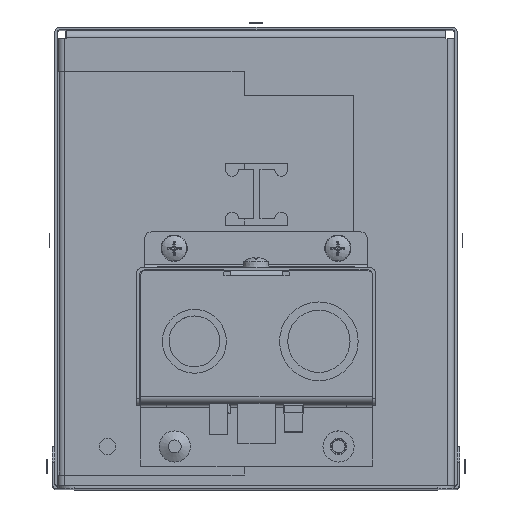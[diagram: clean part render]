
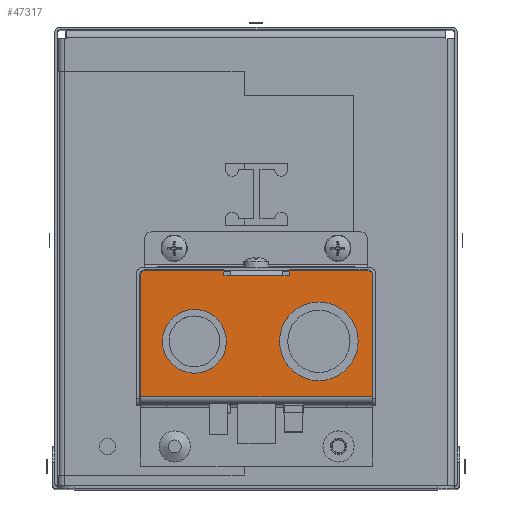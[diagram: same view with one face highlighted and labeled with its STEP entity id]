
A CAD part, top view. The second image highlights one B-rep face of the part: STEP entity #47317.
In plain terms, the highlighted planar face has unit normal (0, 0, 1).
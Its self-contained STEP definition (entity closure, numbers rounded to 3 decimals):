
#2144=FACE_BOUND('',#6952,.T.);
#2145=FACE_BOUND('',#6953,.T.);
#2728=PLANE('',#50004);
#4430=FACE_OUTER_BOUND('',#6951,.T.);
#6951=EDGE_LOOP('',(#32459,#32460,#32461,#32462,#32463,#32464,#32465,#32466,
#32467,#32468,#32469,#32470,#32471,#32472,#32473));
#6952=EDGE_LOOP('',(#32474));
#6953=EDGE_LOOP('',(#32475));
#9980=LINE('',#62967,#14918);
#9982=LINE('',#62973,#14920);
#9987=LINE('',#62986,#14925);
#9991=LINE('',#62994,#14929);
#9992=LINE('',#62996,#14930);
#9996=LINE('',#63007,#14934);
#9998=LINE('',#63011,#14936);
#10117=LINE('',#63274,#15055);
#10118=LINE('',#63279,#15056);
#10119=LINE('',#63281,#15057);
#14918=VECTOR('',#53026,10.);
#14920=VECTOR('',#53030,10.);
#14925=VECTOR('',#53041,10.);
#14929=VECTOR('',#53049,10.);
#14930=VECTOR('',#53052,10.);
#14934=VECTOR('',#53062,10.);
#14936=VECTOR('',#53066,10.);
#15055=VECTOR('',#53321,10.);
#15056=VECTOR('',#53326,10.);
#15057=VECTOR('',#53327,10.);
#19574=CIRCLE('',#49934,1.);
#19589=CIRCLE('',#50003,2.);
#19590=CIRCLE('',#50005,1.);
#19591=CIRCLE('',#50006,2.);
#19592=CIRCLE('',#50007,1.);
#19593=CIRCLE('',#50008,12.);
#19594=CIRCLE('',#50009,9.75);
#20312=VERTEX_POINT('',#62956);
#20313=VERTEX_POINT('',#62960);
#20316=VERTEX_POINT('',#62965);
#20318=VERTEX_POINT('',#62970);
#20319=VERTEX_POINT('',#62972);
#20322=VERTEX_POINT('',#62979);
#20324=VERTEX_POINT('',#62984);
#20326=VERTEX_POINT('',#62992);
#20327=VERTEX_POINT('',#62999);
#20328=VERTEX_POINT('',#63000);
#20406=VERTEX_POINT('',#63269);
#20407=VERTEX_POINT('',#63273);
#20408=VERTEX_POINT('',#63275);
#20409=VERTEX_POINT('',#63278);
#20410=VERTEX_POINT('',#63280);
#20411=VERTEX_POINT('',#63283);
#20412=VERTEX_POINT('',#63285);
#24958=EDGE_CURVE('',#20313,#20316,#9980,.T.);
#24960=EDGE_CURVE('',#20319,#20318,#9982,.T.);
#24967=EDGE_CURVE('',#20324,#20322,#9987,.T.);
#24971=EDGE_CURVE('',#20316,#20326,#9991,.T.);
#24972=EDGE_CURVE('',#20312,#20319,#9992,.T.);
#24974=EDGE_CURVE('',#20327,#20328,#19574,.T.);
#24978=EDGE_CURVE('',#20328,#20313,#9996,.T.);
#24980=EDGE_CURVE('',#20312,#20326,#9998,.T.);
#25111=EDGE_CURVE('',#20327,#20406,#19589,.T.);
#25113=EDGE_CURVE('',#20318,#20407,#10117,.T.);
#25114=EDGE_CURVE('',#20407,#20408,#19590,.T.);
#25115=EDGE_CURVE('',#20322,#20408,#19591,.T.);
#25116=EDGE_CURVE('',#20409,#20324,#10118,.T.);
#25117=EDGE_CURVE('',#20409,#20410,#10119,.T.);
#25118=EDGE_CURVE('',#20410,#20406,#19592,.T.);
#25119=EDGE_CURVE('',#20411,#20411,#19593,.T.);
#25120=EDGE_CURVE('',#20412,#20412,#19594,.T.);
#32459=ORIENTED_EDGE('',*,*,#24974,.T.);
#32460=ORIENTED_EDGE('',*,*,#24978,.T.);
#32461=ORIENTED_EDGE('',*,*,#24958,.T.);
#32462=ORIENTED_EDGE('',*,*,#24971,.T.);
#32463=ORIENTED_EDGE('',*,*,#24980,.F.);
#32464=ORIENTED_EDGE('',*,*,#24972,.T.);
#32465=ORIENTED_EDGE('',*,*,#24960,.T.);
#32466=ORIENTED_EDGE('',*,*,#25113,.T.);
#32467=ORIENTED_EDGE('',*,*,#25114,.T.);
#32468=ORIENTED_EDGE('',*,*,#25115,.F.);
#32469=ORIENTED_EDGE('',*,*,#24967,.F.);
#32470=ORIENTED_EDGE('',*,*,#25116,.F.);
#32471=ORIENTED_EDGE('',*,*,#25117,.T.);
#32472=ORIENTED_EDGE('',*,*,#25118,.T.);
#32473=ORIENTED_EDGE('',*,*,#25111,.F.);
#32474=ORIENTED_EDGE('',*,*,#25119,.T.);
#32475=ORIENTED_EDGE('',*,*,#25120,.T.);
#47317=ADVANCED_FACE('',(#4430,#2144,#2145),#2728,.T.);
#49934=AXIS2_PLACEMENT_3D('',#63001,#53056,#53057);
#50003=AXIS2_PLACEMENT_3D('',#63270,#53316,#53317);
#50004=AXIS2_PLACEMENT_3D('',#63272,#53319,#53320);
#50005=AXIS2_PLACEMENT_3D('',#63276,#53322,#53323);
#50006=AXIS2_PLACEMENT_3D('',#63277,#53324,#53325);
#50007=AXIS2_PLACEMENT_3D('',#63282,#53328,#53329);
#50008=AXIS2_PLACEMENT_3D('',#63284,#53330,#53331);
#50009=AXIS2_PLACEMENT_3D('',#63286,#53332,#53333);
#53026=DIRECTION('',(0.,-1.,0.));
#53030=DIRECTION('',(0.,1.,0.));
#53041=DIRECTION('',(0.,1.,0.));
#53049=DIRECTION('',(-1.,0.,0.));
#53052=DIRECTION('',(-1.,0.,0.));
#53056=DIRECTION('center_axis',(0.,0.,
1.));
#53057=DIRECTION('ref_axis',(-1.,0.,0.));
#53062=DIRECTION('',(-1.,0.,0.));
#53066=DIRECTION('',(1.,0.,0.));
#53316=DIRECTION('center_axis',(0.,0.,
-1.));
#53317=DIRECTION('ref_axis',(0.707,0.707,0.));
#53319=DIRECTION('center_axis',(0.,0.,
1.));
#53320=DIRECTION('ref_axis',(0.,1.,0.));
#53321=DIRECTION('',(-1.,0.,0.));
#53322=DIRECTION('center_axis',(0.,0.,
1.));
#53323=DIRECTION('ref_axis',(0.,-1.,0.));
#53324=DIRECTION('center_axis',(0.,0.,
-1.));
#53325=DIRECTION('ref_axis',(-0.707,0.707,0.));
#53326=DIRECTION('',(-1.,0.,0.));
#53327=DIRECTION('',(0.,1.,0.));
#53328=DIRECTION('center_axis',(0.,0.,
1.));
#53329=DIRECTION('ref_axis',(-1.,0.,0.));
#53330=DIRECTION('center_axis',(0.,0.,
-1.));
#53331=DIRECTION('ref_axis',(0.,1.,0.));
#53332=DIRECTION('center_axis',(0.,0.,
-1.));
#53333=DIRECTION('ref_axis',(0.763,0.646,0.));
#62956=CARTESIAN_POINT('',(-7.8,58.4,154.8));
#62960=CARTESIAN_POINT('',(10.2,59.9,154.8));
#62965=CARTESIAN_POINT('',(10.2,58.4,154.8));
#62967=CARTESIAN_POINT('',(10.2,39.4,154.8));
#62970=CARTESIAN_POINT('',(-9.8,59.9,154.8));
#62972=CARTESIAN_POINT('',(-9.8,58.4,154.8));
#62973=CARTESIAN_POINT('',(-9.8,59.4,154.8));
#62979=CARTESIAN_POINT('',(-35.2,58.4,154.8));
#62984=CARTESIAN_POINT('',(-35.2,21.4,154.8));
#62986=CARTESIAN_POINT('',(-35.2,59.4,154.8));
#62992=CARTESIAN_POINT('',(8.2,58.4,154.8));
#62994=CARTESIAN_POINT('',(4.7,58.4,154.8));
#62996=CARTESIAN_POINT('',(-4.3,58.4,154.8));
#62999=CARTESIAN_POINT('',(35.161,59.651,154.8));
#63000=CARTESIAN_POINT('',(34.5,59.9,154.8));
#63001=CARTESIAN_POINT('Origin',(34.5,58.9,154.8));
#63007=CARTESIAN_POINT('',(-17.15,59.9,154.8));
#63011=CARTESIAN_POINT('',(0.2,58.4,154.8));
#63269=CARTESIAN_POINT('',(35.486,59.065,154.8));
#63270=CARTESIAN_POINT('Origin',(33.6,58.4,154.8));
#63272=CARTESIAN_POINT('Origin',(0.2,19.4,154.8));
#63273=CARTESIAN_POINT('',(-34.5,59.9,154.8));
#63274=CARTESIAN_POINT('',(-17.15,59.9,154.8));
#63275=CARTESIAN_POINT('',(-34.523,59.9,154.8));
#63276=CARTESIAN_POINT('Origin',(-34.5,58.9,154.8));
#63277=CARTESIAN_POINT('Origin',(-33.2,58.4,154.8));
#63278=CARTESIAN_POINT('',(35.5,21.4,154.8));
#63279=CARTESIAN_POINT('',(0.2,21.4,154.8));
#63280=CARTESIAN_POINT('',(35.5,58.9,154.8));
#63281=CARTESIAN_POINT('',(35.5,39.15,154.8));
#63282=CARTESIAN_POINT('Origin',(34.5,58.9,154.8));
#63283=CARTESIAN_POINT('',(19.2,26.4,154.8));
#63284=CARTESIAN_POINT('Origin',(19.2,38.4,154.8));
#63285=CARTESIAN_POINT('',(-26.24,32.099,154.8));
#63286=CARTESIAN_POINT('Origin',(-18.8,38.4,154.8));
